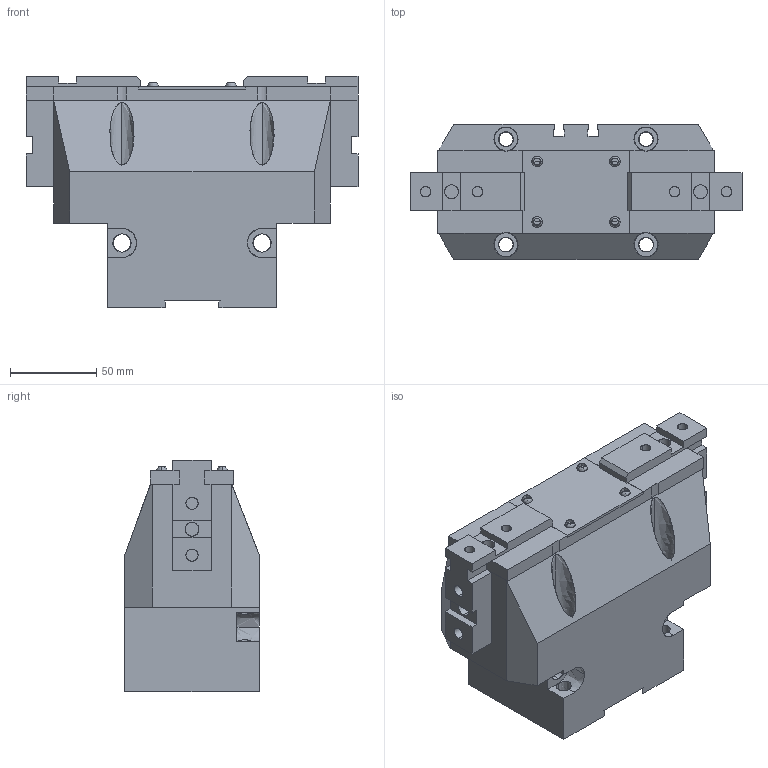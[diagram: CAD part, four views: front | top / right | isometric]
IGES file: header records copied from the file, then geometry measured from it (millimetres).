
Global section: file name: C:\Documents and Settings\Administrateur\Mes documents\OPE-160-SX-OPEN.igs; native system: AutoCAD-16.0s (LMS Tech) (Microsoft Windows NT Version 5.1 (x86)); preprocessor: Autodesk IGES Translator Mechanical Desktop.R7.0.43.0 (Mar 18 2003) from Autodesk, Inc.; date: 20050629.143547; units: millimetre
Bounding box: 192 x 78 x 134 mm (x, y, z)
Surface area: 157427.6 mm2 (no closed solid volume)
Topology: 0 solids, 0 shells, 301 faces, 2903 edges, 2988 vertices
Faces by surface type: bspline 301
